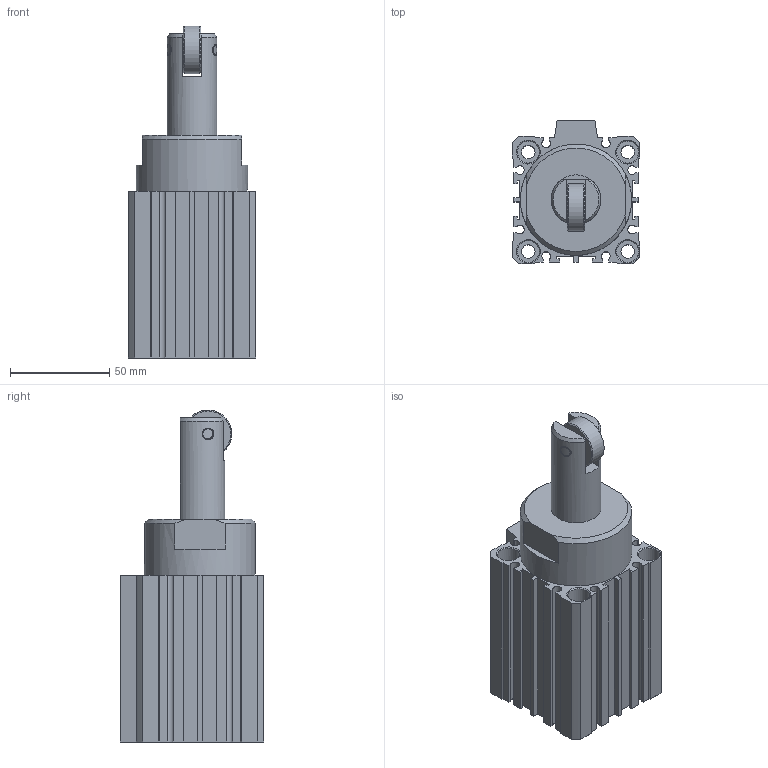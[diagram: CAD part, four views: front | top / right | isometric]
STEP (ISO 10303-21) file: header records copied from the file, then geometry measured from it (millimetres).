
FILE_DESCRIPTION((''),'2;1');
FILE_NAME('I:\3D電子目錄\氣缸\STC\STC\STC50\STC50x30.stp','2007-09-19T15:41:37',('Administrator'),(''),'Autodesk Inventor 11','Autodesk Inventor 11','');
FILE_SCHEMA(('AUTOMOTIVE_DESIGN { 1 0 10303 214 1 1 1 1 }'));
Length unit declared in the file: millimetre
Products named in the file (1): STC50
Bounding box: 64 x 72 x 167 mm (x, y, z)
Volume: 387376.8 mm3; surface area: 63221.2 mm2
Topology: 2 solids, 2 shells, 184 faces, 475 edges, 309 vertices
Faces by surface type: plane 118, cylinder 40, cone 20, bspline 5, torus 1
Full cylindrical faces by diameter (mm): 2.7 x2, 5 x2, 5.2 x2, 6.8 x4, 11 x8, 24 x1, 37 x1, 52 x2, 55 x1, 56 x1
Entity records: 5910 total; most frequent: CARTESIAN_POINT 1602, DIRECTION 866, ORIENTED_EDGE 836, EDGE_CURVE 418, VECTOR 296, LINE 296, VERTEX_POINT 295, AXIS2_PLACEMENT_3D 285
